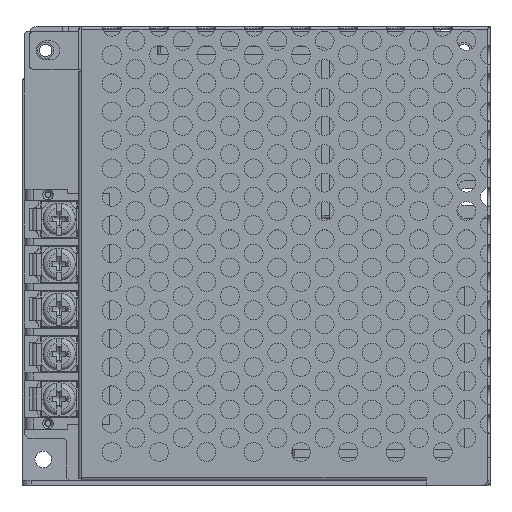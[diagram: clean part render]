
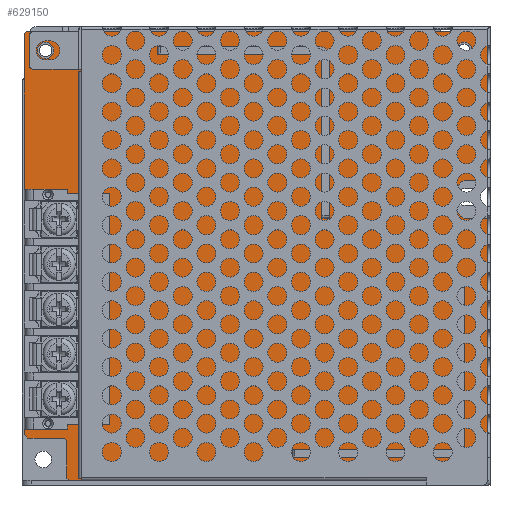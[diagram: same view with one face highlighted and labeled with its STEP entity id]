
A CAD part, top view. The second image highlights one B-rep face of the part: STEP entity #629150.
In plain terms, the highlighted planar face has unit normal (0, 0, 1).
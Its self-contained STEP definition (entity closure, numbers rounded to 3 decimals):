
#627490=CARTESIAN_POINT('',(-280.35,224.955,
-1.8));
#627500=DIRECTION('',(0.,0.,1.));
#627510=DIRECTION('',(1.,0.,0.));
#627520=AXIS2_PLACEMENT_3D('',#627490,#627500,#627510);
#627530=PLANE('',#627520);
#627540=CARTESIAN_POINT('',(-315.667,197.775,
-1.8));
#627550=DIRECTION('',(0.,1.,0.));
#627560=VECTOR('',#627550,1.);
#627570=LINE('',#627540,#627560);
#627580=CARTESIAN_POINT('',(-315.667,197.775,
-1.8));
#627590=VERTEX_POINT('',#627580);
#627600=CARTESIAN_POINT('',(-315.667,282.525,
-1.8));
#627610=VERTEX_POINT('',#627600);
#627620=EDGE_CURVE('',#627590,#627610,#627570,.T.);
#627630=ORIENTED_EDGE('',*,*,#627620,.F.);
#627640=CARTESIAN_POINT('',(-315.667,282.525,
-1.8));
#627650=DIRECTION('',(0.707,0.707,0.));
#627660=VECTOR('',#627650,1.);
#627670=LINE('',#627640,#627660);
#627680=CARTESIAN_POINT('',(-315.167,283.025,
-1.8));
#627690=VERTEX_POINT('',#627680);
#627700=EDGE_CURVE('',#627610,#627690,#627670,.T.);
#627710=ORIENTED_EDGE('',*,*,#627700,.F.);
#627720=CARTESIAN_POINT('',(-315.167,283.025,
-1.8));
#627730=DIRECTION('',(1.,0.,0.));
#627740=VECTOR('',#627730,1.);
#627750=LINE('',#627720,#627740);
#627760=CARTESIAN_POINT('',(-218.167,283.025,
-1.8));
#627770=VERTEX_POINT('',#627760);
#627780=EDGE_CURVE('',#627690,#627770,#627750,.T.);
#627790=ORIENTED_EDGE('',*,*,#627780,.F.);
#627800=CARTESIAN_POINT('',(-218.167,283.025,
-1.8));
#627810=DIRECTION('',(0.707,-0.707,0.));
#627820=VECTOR('',#627810,1.);
#627830=LINE('',#627800,#627820);
#627840=CARTESIAN_POINT('',(-217.667,282.525,
-1.8));
#627850=VERTEX_POINT('',#627840);
#627860=EDGE_CURVE('',#627770,#627850,#627830,.T.);
#627870=ORIENTED_EDGE('',*,*,#627860,.F.);
#627880=CARTESIAN_POINT('',(-217.667,251.525,
-1.8));
#627890=DIRECTION('',(0.,1.,0.));
#627900=VECTOR('',#627890,1.);
#627910=LINE('',#627880,#627900);
#627920=CARTESIAN_POINT('',(-217.667,251.525,
-1.8));
#627930=VERTEX_POINT('',#627920);
#627940=EDGE_CURVE('',#627930,#627850,#627910,.T.);
#627950=ORIENTED_EDGE('',*,*,#627940,.T.);
#627960=CARTESIAN_POINT('',(-222.667,251.525,
-1.8));
#627970=DIRECTION('',(1.,0.,0.));
#627980=VECTOR('',#627970,1.);
#627990=LINE('',#627960,#627980);
#628000=CARTESIAN_POINT('',(-222.667,251.525,
-1.8));
#628010=VERTEX_POINT('',#628000);
#628020=EDGE_CURVE('',#628010,#627930,#627990,.T.);
#628030=ORIENTED_EDGE('',*,*,#628020,.T.);
#628040=CARTESIAN_POINT('',(-220.167,247.525,
-1.8));
#628050=DIRECTION('',(0.,0.,1.));
#628060=DIRECTION('',(1.,0.,0.));
#628070=AXIS2_PLACEMENT_3D('',#628040,#628050,#628060);
#628080=CIRCLE('',#628070,4.717);
#628090=CARTESIAN_POINT('',(-222.667,243.525,
-1.8));
#628100=VERTEX_POINT('',#628090);
#628110=EDGE_CURVE('',#628010,#628100,#628080,.T.);
#628120=ORIENTED_EDGE('',*,*,#628110,.F.);
#628130=CARTESIAN_POINT('',(-222.667,243.525,
-1.8));
#628140=DIRECTION('',(1.,0.,0.));
#628150=VECTOR('',#628140,1.);
#628160=LINE('',#628130,#628150);
#628170=CARTESIAN_POINT('',(-217.667,243.525,
-1.8));
#628180=VERTEX_POINT('',#628170);
#628190=EDGE_CURVE('',#628100,#628180,#628160,.T.);
#628200=ORIENTED_EDGE('',*,*,#628190,.F.);
#628210=CARTESIAN_POINT('',(-217.667,188.525,
-1.8));
#628220=DIRECTION('',(0.,1.,0.));
#628230=VECTOR('',#628220,1.);
#628240=LINE('',#628210,#628230);
#628250=CARTESIAN_POINT('',(-217.667,188.525,
-1.8));
#628260=VERTEX_POINT('',#628250);
#628270=EDGE_CURVE('',#628260,#628180,#628240,.T.);
#628280=ORIENTED_EDGE('',*,*,#628270,.T.);
#628290=CARTESIAN_POINT('',(-218.167,188.025,
-1.8));
#628300=DIRECTION('',(0.707,0.707,0.));
#628310=VECTOR('',#628300,1.);
#628320=LINE('',#628290,#628310);
#628330=CARTESIAN_POINT('',(-218.167,188.025,
-1.8));
#628340=VERTEX_POINT('',#628330);
#628350=EDGE_CURVE('',#628340,#628260,#628320,.T.);
#628360=ORIENTED_EDGE('',*,*,#628350,.T.);
#628370=CARTESIAN_POINT('',(-306.167,188.025,
-1.8));
#628380=DIRECTION('',(1.,0.,0.));
#628390=VECTOR('',#628380,1.);
#628400=LINE('',#628370,#628390);
#628410=CARTESIAN_POINT('',(-306.167,188.025,
-1.8));
#628420=VERTEX_POINT('',#628410);
#628430=EDGE_CURVE('',#628420,#628340,#628400,.T.);
#628440=ORIENTED_EDGE('',*,*,#628430,.T.);
#628450=CARTESIAN_POINT('',(-306.667,188.525,
-1.8));
#628460=DIRECTION('',(0.707,-0.707,0.));
#628470=VECTOR('',#628460,1.);
#628480=LINE('',#628450,#628470);
#628490=CARTESIAN_POINT('',(-306.667,188.525,
-1.8));
#628500=VERTEX_POINT('',#628490);
#628510=EDGE_CURVE('',#628500,#628420,#628480,.T.);
#628520=ORIENTED_EDGE('',*,*,#628510,.T.);
#628530=CARTESIAN_POINT('',(-306.667,188.525,
-1.8));
#628540=DIRECTION('',(0.,1.,0.));
#628550=VECTOR('',#628540,1.);
#628560=LINE('',#628530,#628550);
#628570=CARTESIAN_POINT('',(-306.667,196.525,
-1.8));
#628580=VERTEX_POINT('',#628570);
#628590=EDGE_CURVE('',#628500,#628580,#628560,.T.);
#628600=ORIENTED_EDGE('',*,*,#628590,.F.);
#628610=CARTESIAN_POINT('',(-307.167,197.025,
-1.8));
#628620=DIRECTION('',(0.707,-0.707,0.));
#628630=VECTOR('',#628620,1.);
#628640=LINE('',#628610,#628630);
#628650=CARTESIAN_POINT('',(-307.167,197.025,
-1.8));
#628660=VERTEX_POINT('',#628650);
#628670=EDGE_CURVE('',#628660,#628580,#628640,.T.);
#628680=ORIENTED_EDGE('',*,*,#628670,.T.);
#628690=CARTESIAN_POINT('',(-314.917,197.025,
-1.8));
#628700=DIRECTION('',(1.,0.,0.));
#628710=VECTOR('',#628700,1.);
#628720=LINE('',#628690,#628710);
#628730=CARTESIAN_POINT('',(-314.917,197.025,
-1.8));
#628740=VERTEX_POINT('',#628730);
#628750=EDGE_CURVE('',#628740,#628660,#628720,.T.);
#628760=ORIENTED_EDGE('',*,*,#628750,.T.);
#628770=CARTESIAN_POINT('',(-315.667,197.775,
-1.8));
#628780=DIRECTION('',(0.707,-0.707,0.));
#628790=VECTOR('',#628780,1.);
#628800=LINE('',#628770,#628790);
#628810=EDGE_CURVE('',#627590,#628740,#628800,.T.);
#628820=ORIENTED_EDGE('',*,*,#628810,.T.);
#628830=EDGE_LOOP('',(#628820,#628760,#628680,#628600,#628520,#628440,
#628360,#628280,#628200,#628120,#628030,#627950,#627870,#627790,#627710,
#627630));
#628840=FACE_OUTER_BOUND('',#628830,.T.);
#628850=CARTESIAN_POINT('',(-222.667,279.025,
-1.8));
#628860=DIRECTION('',(0.,0.,1.));
#628870=DIRECTION('',(1.,0.,0.));
#628880=AXIS2_PLACEMENT_3D('',#628850,#628860,#628870);
#628890=CIRCLE('',#628880,1.75);
#628900=CARTESIAN_POINT('',(-220.917,279.025,
-1.8));
#628910=VERTEX_POINT('',#628900);
#628920=CARTESIAN_POINT('',(-224.417,279.025,
-1.8));
#628930=VERTEX_POINT('',#628920);
#628940=EDGE_CURVE('',#628910,#628930,#628890,.T.);
#628950=ORIENTED_EDGE('',*,*,#628940,.F.);
#628960=EDGE_CURVE('',#628930,#628910,#628890,.T.);
#628970=ORIENTED_EDGE('',*,*,#628960,.F.);
#628980=EDGE_LOOP('',(#628970,#628950));
#628990=FACE_BOUND('',#628980,.T.);
#629000=CARTESIAN_POINT('',(-311.177,279.025,
-1.8));
#629010=DIRECTION('',(0.,0.,1.));
#629020=DIRECTION('',(1.,0.,0.));
#629030=AXIS2_PLACEMENT_3D('',#629000,#629010,#629020);
#629040=CIRCLE('',#629030,1.75);
#629050=CARTESIAN_POINT('',(-309.427,279.025,
-1.8));
#629060=VERTEX_POINT('',#629050);
#629070=CARTESIAN_POINT('',(-312.927,279.025,
-1.8));
#629080=VERTEX_POINT('',#629070);
#629090=EDGE_CURVE('',#629060,#629080,#629040,.T.);
#629100=ORIENTED_EDGE('',*,*,#629090,.F.);
#629110=EDGE_CURVE('',#629080,#629060,#629040,.T.);
#629120=ORIENTED_EDGE('',*,*,#629110,.F.);
#629130=EDGE_LOOP('',(#629120,#629100));
#629140=FACE_BOUND('',#629130,.T.);
#629150=ADVANCED_FACE('',(#628840,#628990,#629140),#627530,.T.);
